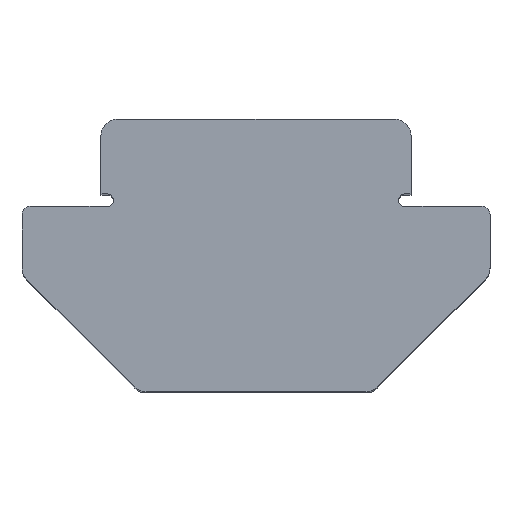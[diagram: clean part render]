
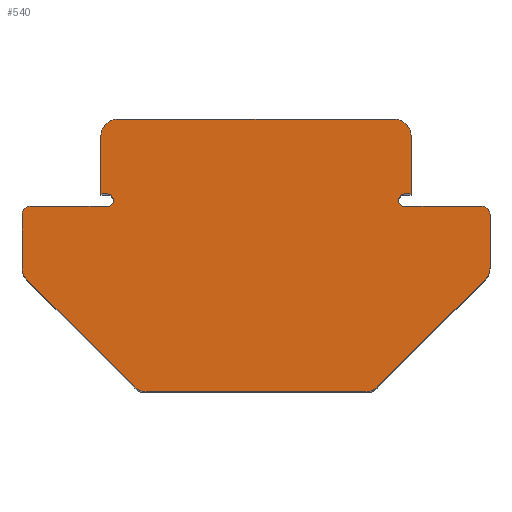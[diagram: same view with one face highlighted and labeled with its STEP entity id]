
A CAD part, top view. The second image highlights one B-rep face of the part: STEP entity #540.
In plain terms, the highlighted planar face has unit normal (0, 0, 1).
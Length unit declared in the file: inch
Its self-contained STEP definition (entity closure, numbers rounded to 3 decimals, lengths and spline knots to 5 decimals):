
#46=CARTESIAN_POINT('',(-0.179,0.0075,0.75));
#47=DIRECTION('',(0.,0.,-1.));
#48=DIRECTION('',(0.,1.,0.));
#49=AXIS2_PLACEMENT_3D('',#46,#47,#48);
#60=DIRECTION('',(1.,0.,0.));
#61=VECTOR('',#60,0.0075);
#62=CARTESIAN_POINT('',(-0.1865,0.015,0.75));
#63=LINE('',#62,#61);
#64=DIRECTION('',(0.,-1.,0.));
#65=VECTOR('',#64,0.07);
#66=CARTESIAN_POINT('',(-0.1865,0.085,0.75));
#67=LINE('',#66,#65);
#68=DIRECTION('',(-1.,0.,0.));
#69=VECTOR('',#68,0.333);
#70=CARTESIAN_POINT('',(0.1665,0.105,0.75));
#71=LINE('',#70,#69);
#72=DIRECTION('',(0.,1.,0.));
#73=VECTOR('',#72,0.07);
#74=CARTESIAN_POINT('',(0.1865,0.015,0.75));
#75=LINE('',#74,#73);
#76=DIRECTION('',(1.,0.,0.));
#77=VECTOR('',#76,0.0075);
#78=CARTESIAN_POINT('',(0.179,0.015,0.75));
#79=LINE('',#78,#77);
#80=DIRECTION('',(0.,1.,0.));
#81=VECTOR('',#80,0.06372);
#82=CARTESIAN_POINT('',(0.2815,-0.07372,0.75));
#83=LINE('',#82,#81);
#84=DIRECTION('',(0.707,0.707,0.));
#85=VECTOR('',#84,0.18284);
#86=CARTESIAN_POINT('',(0.14636,-0.21714,0.75));
#87=LINE('',#86,#85);
#88=DIRECTION('',(1.,0.,0.));
#89=VECTOR('',#88,0.26443);
#90=CARTESIAN_POINT('',(-0.13222,-0.223,0.75));
#91=LINE('',#90,#89);
#92=DIRECTION('',(0.707,-0.707,0.));
#93=VECTOR('',#92,0.18284);
#94=CARTESIAN_POINT('',(-0.27564,-0.08786,0.75));
#95=LINE('',#94,#93);
#96=DIRECTION('',(0.,-1.,0.));
#97=VECTOR('',#96,0.06372);
#98=CARTESIAN_POINT('',(-0.2815,-0.01,0.75));
#99=LINE('',#98,#97);
#100=DIRECTION('',(-1.,0.,0.));
#101=VECTOR('',#100,0.0925);
#102=CARTESIAN_POINT('',(-0.179,0.,0.75));
#103=LINE('',#102,#101);
#121=CARTESIAN_POINT('',(-0.2715,-0.01,0.75));
#122=DIRECTION('',(0.,0.,1.));
#123=DIRECTION('',(0.,1.,0.));
#124=AXIS2_PLACEMENT_3D('',#121,#122,#123);
#139=CARTESIAN_POINT('',(-0.2615,-0.07372,0.75));
#140=DIRECTION('',(0.,0.,1.));
#141=DIRECTION('',(-1.,0.,0.));
#142=AXIS2_PLACEMENT_3D('',#139,#140,#141);
#157=CARTESIAN_POINT('',(-0.13222,-0.203,0.75));
#158=DIRECTION('',(0.,0.,1.));
#159=DIRECTION('',(-0.707,-0.707,0.));
#160=AXIS2_PLACEMENT_3D('',#157,#158,#159);
#185=CARTESIAN_POINT('',(0.13222,-0.203,0.75));
#186=DIRECTION('',(0.,0.,1.));
#187=DIRECTION('',(0.,-1.,0.));
#188=AXIS2_PLACEMENT_3D('',#185,#186,#187);
#203=CARTESIAN_POINT('',(0.2615,-0.07372,0.75));
#204=DIRECTION('',(0.,0.,1.));
#205=DIRECTION('',(0.707,-0.707,0.));
#206=AXIS2_PLACEMENT_3D('',#203,#204,#205);
#221=CARTESIAN_POINT('',(0.2715,-0.01,0.75));
#222=DIRECTION('',(0.,0.,1.));
#223=DIRECTION('',(1.,0.,0.));
#224=AXIS2_PLACEMENT_3D('',#221,#222,#223);
#230=DIRECTION('',(-1.,0.,0.));
#231=VECTOR('',#230,0.0925);
#232=CARTESIAN_POINT('',(0.2715,0.,0.75));
#233=LINE('',#232,#231);
#247=CARTESIAN_POINT('',(0.179,0.0075,0.75));
#248=DIRECTION('',(0.,0.,-1.));
#249=DIRECTION('',(0.,-1.,0.));
#250=AXIS2_PLACEMENT_3D('',#247,#248,#249);
#269=CARTESIAN_POINT('',(0.1665,0.085,0.75));
#270=DIRECTION('',(0.,0.,1.));
#271=DIRECTION('',(1.,0.,0.));
#272=AXIS2_PLACEMENT_3D('',#269,#270,#271);
#297=CARTESIAN_POINT('',(-0.1665,0.085,0.75));
#298=DIRECTION('',(0.,0.,1.));
#299=DIRECTION('',(0.,1.,0.));
#300=AXIS2_PLACEMENT_3D('',#297,#298,#299);
#315=CARTESIAN_POINT('',(0.1865,0.015,0.75));
#317=VERTEX_POINT('',#315);
#319=CARTESIAN_POINT('',(-0.1865,0.015,0.75));
#321=VERTEX_POINT('',#319);
#330=CARTESIAN_POINT('',(-0.1865,0.085,0.75));
#332=VERTEX_POINT('',#330);
#336=CARTESIAN_POINT('',(-0.1665,0.105,0.75));
#337=VERTEX_POINT('',#336);
#338=CARTESIAN_POINT('',(0.1665,0.105,0.75));
#340=VERTEX_POINT('',#338);
#344=CARTESIAN_POINT('',(0.1865,0.085,0.75));
#345=VERTEX_POINT('',#344);
#346=CARTESIAN_POINT('',(0.2715,0.,0.75));
#348=VERTEX_POINT('',#346);
#352=CARTESIAN_POINT('',(0.2815,-0.01,0.75));
#353=VERTEX_POINT('',#352);
#354=CARTESIAN_POINT('',(-0.2815,-0.01,0.75));
#356=VERTEX_POINT('',#354);
#360=CARTESIAN_POINT('',(-0.2715,0.,0.75));
#361=VERTEX_POINT('',#360);
#363=CARTESIAN_POINT('',(0.179,0.015,0.75));
#365=VERTEX_POINT('',#363);
#367=CARTESIAN_POINT('',(0.179,0.,0.75));
#369=VERTEX_POINT('',#367);
#370=CARTESIAN_POINT('',(-0.179,0.015,0.75));
#372=VERTEX_POINT('',#370);
#374=CARTESIAN_POINT('',(-0.179,0.,0.75));
#376=VERTEX_POINT('',#374);
#378=CARTESIAN_POINT('',(-0.27564,-0.08786,0.75));
#380=VERTEX_POINT('',#378);
#384=CARTESIAN_POINT('',(-0.2815,-0.07372,0.75));
#385=VERTEX_POINT('',#384);
#386=CARTESIAN_POINT('',(-0.13222,-0.223,0.75));
#388=VERTEX_POINT('',#386);
#392=CARTESIAN_POINT('',(-0.14636,-0.21714,0.75));
#393=VERTEX_POINT('',#392);
#394=CARTESIAN_POINT('',(0.14636,-0.21714,0.75));
#396=VERTEX_POINT('',#394);
#400=CARTESIAN_POINT('',(0.13222,-0.223,0.75));
#401=VERTEX_POINT('',#400);
#402=CARTESIAN_POINT('',(0.2815,-0.07372,0.75));
#404=VERTEX_POINT('',#402);
#408=CARTESIAN_POINT('',(0.27564,-0.08786,0.75));
#409=VERTEX_POINT('',#408);
#491=CARTESIAN_POINT('',(0.,0.,0.75));
#492=DIRECTION('',(0.,0.,1.));
#493=DIRECTION('',(1.,0.,0.));
#494=AXIS2_PLACEMENT_3D('',#491,#492,#493);
#495=PLANE('',#494);
#497=ORIENTED_EDGE('',*,*,#496,.F.);
#498=ORIENTED_EDGE('',*,*,#483,.F.);
#499=ORIENTED_EDGE('',*,*,#472,.F.);
#501=ORIENTED_EDGE('',*,*,#500,.F.);
#503=ORIENTED_EDGE('',*,*,#502,.F.);
#505=ORIENTED_EDGE('',*,*,#504,.F.);
#507=ORIENTED_EDGE('',*,*,#506,.F.);
#509=ORIENTED_EDGE('',*,*,#508,.F.);
#511=ORIENTED_EDGE('',*,*,#510,.F.);
#513=ORIENTED_EDGE('',*,*,#512,.F.);
#515=ORIENTED_EDGE('',*,*,#514,.F.);
#517=ORIENTED_EDGE('',*,*,#516,.F.);
#519=ORIENTED_EDGE('',*,*,#518,.F.);
#521=ORIENTED_EDGE('',*,*,#520,.F.);
#523=ORIENTED_EDGE('',*,*,#522,.F.);
#525=ORIENTED_EDGE('',*,*,#524,.F.);
#527=ORIENTED_EDGE('',*,*,#526,.F.);
#529=ORIENTED_EDGE('',*,*,#528,.F.);
#531=ORIENTED_EDGE('',*,*,#530,.F.);
#533=ORIENTED_EDGE('',*,*,#532,.F.);
#535=ORIENTED_EDGE('',*,*,#534,.F.);
#537=ORIENTED_EDGE('',*,*,#536,.F.);
#538=EDGE_LOOP('',(#497,#498,#499,#501,#503,#505,#507,#509,#511,#513,#515,#517,
#519,#521,#523,#525,#527,#529,#531,#533,#535,#537));
#539=FACE_OUTER_BOUND('',#538,.F.);
#50=CIRCLE('',#49,0.0075);
#125=CIRCLE('',#124,0.01);
#143=CIRCLE('',#142,0.02);
#161=CIRCLE('',#160,0.02);
#189=CIRCLE('',#188,0.02);
#207=CIRCLE('',#206,0.02);
#225=CIRCLE('',#224,0.01);
#251=CIRCLE('',#250,0.0075);
#273=CIRCLE('',#272,0.02);
#301=CIRCLE('',#300,0.02);
#472=EDGE_CURVE('',#321,#372,#63,.T.);
#483=EDGE_CURVE('',#372,#376,#50,.T.);
#496=EDGE_CURVE('',#376,#361,#103,.T.);
#500=EDGE_CURVE('',#332,#321,#67,.T.);
#502=EDGE_CURVE('',#337,#332,#301,.T.);
#504=EDGE_CURVE('',#340,#337,#71,.T.);
#506=EDGE_CURVE('',#345,#340,#273,.T.);
#508=EDGE_CURVE('',#317,#345,#75,.T.);
#510=EDGE_CURVE('',#365,#317,#79,.T.);
#512=EDGE_CURVE('',#369,#365,#251,.T.);
#514=EDGE_CURVE('',#348,#369,#233,.T.);
#516=EDGE_CURVE('',#353,#348,#225,.T.);
#518=EDGE_CURVE('',#404,#353,#83,.T.);
#520=EDGE_CURVE('',#409,#404,#207,.T.);
#522=EDGE_CURVE('',#396,#409,#87,.T.);
#524=EDGE_CURVE('',#401,#396,#189,.T.);
#526=EDGE_CURVE('',#388,#401,#91,.T.);
#528=EDGE_CURVE('',#393,#388,#161,.T.);
#530=EDGE_CURVE('',#380,#393,#95,.T.);
#532=EDGE_CURVE('',#385,#380,#143,.T.);
#534=EDGE_CURVE('',#356,#385,#99,.T.);
#536=EDGE_CURVE('',#361,#356,#125,.T.);
#540=ADVANCED_FACE('',(#539),#495,.T.);
